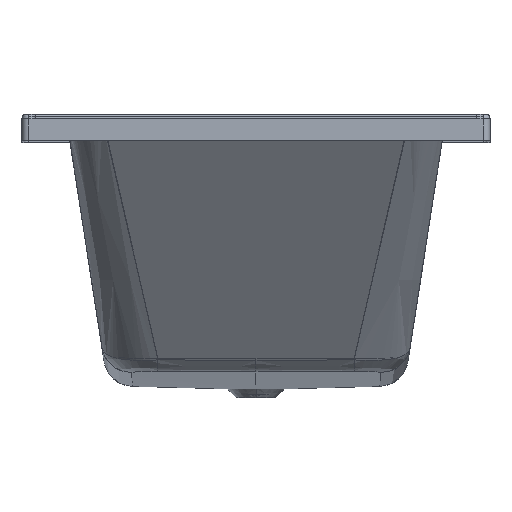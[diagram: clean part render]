
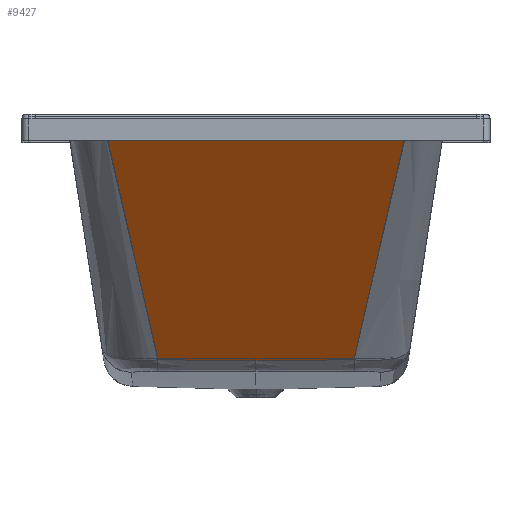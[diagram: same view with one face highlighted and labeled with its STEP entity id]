
A CAD part, top view. The second image highlights one B-rep face of the part: STEP entity #9427.
In plain terms, the highlighted free-form (B-spline) face has degree [3, 3] with [4, 4] control points.
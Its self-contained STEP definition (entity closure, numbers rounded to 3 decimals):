
#2433=CARTESIAN_POINT('',(-146.704,-367.391,
450.558));
#2434=CARTESIAN_POINT('',(-136.734,-367.432,
450.527));
#2435=CARTESIAN_POINT('',(-117.216,-367.503,
450.474));
#2436=CARTESIAN_POINT('',(-89.793,-367.583,
450.414));
#2437=CARTESIAN_POINT('',(-62.452,-367.642,
450.37));
#2438=CARTESIAN_POINT('',(-32.201,-367.684,
450.339));
#2439=CARTESIAN_POINT('',(-10.961,-367.694,
450.332));
#2440=CARTESIAN_POINT('',(0.,-367.694,
450.332));
#2442=DIRECTION('',(-0.181,0.788,0.588));
#2443=VECTOR('',#2442,454.441);
#2444=CARTESIAN_POINT('',(-146.704,-367.391,
450.558));
#2445=LINE('',#2444,#2443);
#2446=DIRECTION('',(-1.,0.,0.));
#2447=VECTOR('',#2446,458.236);
#2448=CARTESIAN_POINT('',(229.118,-9.225,717.845));
#2449=LINE('',#2448,#2447);
#2450=CARTESIAN_POINT('',(0.,-367.694,
450.332));
#2451=CARTESIAN_POINT('',(9.954,-367.694,450.332));
#2452=CARTESIAN_POINT('',(29.448,-367.685,450.338));
#2453=CARTESIAN_POINT('',(56.872,-367.651,450.363));
#2454=CARTESIAN_POINT('',(84.215,-367.597,450.404));
#2455=CARTESIAN_POINT('',(114.504,-367.513,450.466));
#2456=CARTESIAN_POINT('',(135.744,-367.436,450.524));
#2457=CARTESIAN_POINT('',(146.704,-367.391,450.558));
#2711=CARTESIAN_POINT('',(-146.704,-367.391,
450.558));
#3233=DIRECTION('',(0.181,0.788,0.588));
#3234=VECTOR('',#3233,454.441);
#3235=CARTESIAN_POINT('',(146.704,-367.391,450.558));
#3236=LINE('',#3235,#3234);
#3242=CARTESIAN_POINT('',(229.118,-9.225,717.845));
#4325=VERTEX_POINT('',#3242);
#4328=CARTESIAN_POINT('',(-229.118,-9.225,717.845));
#4329=VERTEX_POINT('',#4328);
#4345=VERTEX_POINT('',#2711);
#4348=VERTEX_POINT('',#2440);
#4350=VERTEX_POINT('',#2457);
#9399=CARTESIAN_POINT('',(239.998,-2.056,723.196));
#9400=CARTESIAN_POINT('',(79.999,-2.056,723.196));
#9401=CARTESIAN_POINT('',(-79.999,-2.056,
723.196));
#9402=CARTESIAN_POINT('',(-239.998,-2.056,
723.196));
#9403=CARTESIAN_POINT('',(210.26,-126.325,630.458));
#9404=CARTESIAN_POINT('',(70.087,-126.325,630.458));
#9405=CARTESIAN_POINT('',(-70.087,-126.325,
630.458));
#9406=CARTESIAN_POINT('',(-210.26,-126.325,
630.458));
#9407=CARTESIAN_POINT('',(180.522,-250.594,537.719));
#9408=CARTESIAN_POINT('',(60.174,-250.594,537.719));
#9409=CARTESIAN_POINT('',(-60.174,-250.594,
537.719));
#9410=CARTESIAN_POINT('',(-180.522,-250.594,
537.719));
#9411=CARTESIAN_POINT('',(150.784,-374.863,444.981));
#9412=CARTESIAN_POINT('',(50.261,-374.863,444.981));
#9413=CARTESIAN_POINT('',(-50.261,-374.863,
444.981));
#9414=CARTESIAN_POINT('',(-150.784,-374.863,
444.981));
#9415=B_SPLINE_SURFACE_WITH_KNOTS('',3,3,((#9399,#9400,#9401,#9402),(#9403,
#9404,#9405,#9406),(#9407,#9408,#9409,#9410),(#9411,#9412,#9413,#9414)),
.UNSPECIFIED.,.F.,.F.,.F.,(4,4),(4,4),(-0.008,0.919),(
-0.02,1.02),.UNSPECIFIED.);
#9417=ORIENTED_EDGE('',*,*,#9416,.F.);
#9419=ORIENTED_EDGE('',*,*,#9418,.T.);
#9421=ORIENTED_EDGE('',*,*,#9420,.F.);
#9423=ORIENTED_EDGE('',*,*,#9422,.F.);
#9424=ORIENTED_EDGE('',*,*,#9389,.F.);
#9425=EDGE_LOOP('',(#9417,#9419,#9421,#9423,#9424));
#9426=FACE_OUTER_BOUND('',#9425,.F.);
#9427=ADVANCED_FACE('',(#9426),#9415,.F.);
#2441=B_SPLINE_CURVE_WITH_KNOTS('',3,(#2433,#2434,#2435,#2436,#2437,#2438,#2439,
#2440),.UNSPECIFIED.,.F.,.F.,(4,1,1,1,1,4),(0.,0.2,0.4,0.6,0.8,1.),
.UNSPECIFIED.);
#2458=B_SPLINE_CURVE_WITH_KNOTS('',3,(#2450,#2451,#2452,#2453,#2454,#2455,#2456,
#2457),.UNSPECIFIED.,.F.,.F.,(4,1,1,1,1,4),(0.,0.2,0.4,0.6,0.8,1.),
.UNSPECIFIED.);
#9389=EDGE_CURVE('',#4348,#4350,#2458,.T.);
#9416=EDGE_CURVE('',#4345,#4348,#2441,.T.);
#9418=EDGE_CURVE('',#4345,#4329,#2445,.T.);
#9420=EDGE_CURVE('',#4325,#4329,#2449,.T.);
#9422=EDGE_CURVE('',#4350,#4325,#3236,.T.);
